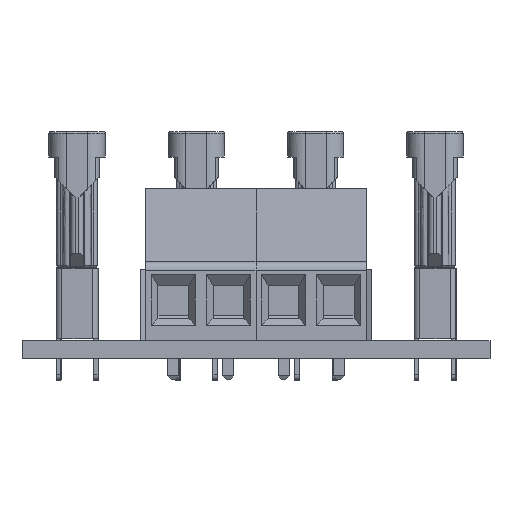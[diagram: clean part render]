
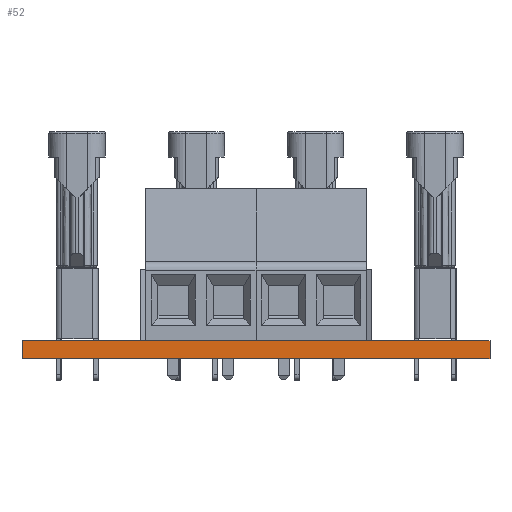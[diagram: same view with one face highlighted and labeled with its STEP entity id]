
A CAD part, front view. The second image highlights one B-rep face of the part: STEP entity #52.
In plain terms, the highlighted planar face has unit normal (0, -1, 0).
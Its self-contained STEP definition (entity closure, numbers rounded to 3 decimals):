
#52 = ADVANCED_FACE('',(#53),#87,.F.);
#53 = FACE_BOUND('',#54,.F.);
#54 = EDGE_LOOP('',(#55,#65,#73,#81));
#55 = ORIENTED_EDGE('',*,*,#56,.T.);
#56 = EDGE_CURVE('',#57,#59,#61,.T.);
#57 = VERTEX_POINT('',#58);
#58 = CARTESIAN_POINT('',(0.,0.,0.));
#59 = VERTEX_POINT('',#60);
#60 = CARTESIAN_POINT('',(0.,0.,1.646));
#61 = LINE('',#62,#63);
#62 = CARTESIAN_POINT('',(0.,0.,0.));
#63 = VECTOR('',#64,1.);
#64 = DIRECTION('',(0.,0.,1.));
#65 = ORIENTED_EDGE('',*,*,#66,.T.);
#66 = EDGE_CURVE('',#59,#67,#69,.T.);
#67 = VERTEX_POINT('',#68);
#68 = CARTESIAN_POINT('',(42.5,0.,1.646));
#69 = LINE('',#70,#71);
#70 = CARTESIAN_POINT('',(0.,0.,1.646));
#71 = VECTOR('',#72,1.);
#72 = DIRECTION('',(1.,0.,0.));
#73 = ORIENTED_EDGE('',*,*,#74,.F.);
#74 = EDGE_CURVE('',#75,#67,#77,.T.);
#75 = VERTEX_POINT('',#76);
#76 = CARTESIAN_POINT('',(42.5,0.,0.));
#77 = LINE('',#78,#79);
#78 = CARTESIAN_POINT('',(42.5,0.,0.));
#79 = VECTOR('',#80,1.);
#80 = DIRECTION('',(0.,0.,1.));
#81 = ORIENTED_EDGE('',*,*,#82,.F.);
#82 = EDGE_CURVE('',#57,#75,#83,.T.);
#83 = LINE('',#84,#85);
#84 = CARTESIAN_POINT('',(0.,0.,0.));
#85 = VECTOR('',#86,1.);
#86 = DIRECTION('',(1.,0.,0.));
#87 = PLANE('',#88);
#88 = AXIS2_PLACEMENT_3D('',#89,#90,#91);
#89 = CARTESIAN_POINT('',(0.,0.,0.));
#90 = DIRECTION('',(0.,1.,0.));
#91 = DIRECTION('',(1.,0.,0.));
